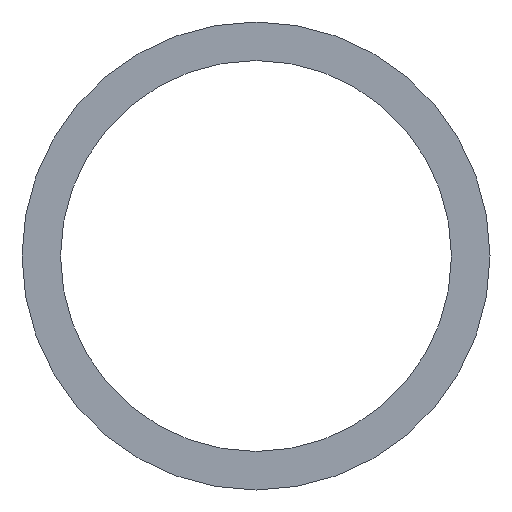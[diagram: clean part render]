
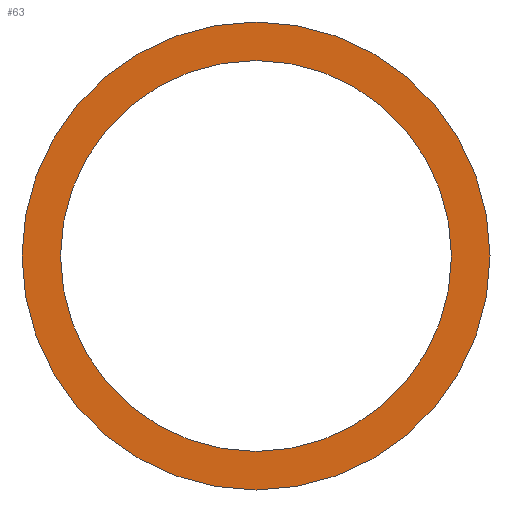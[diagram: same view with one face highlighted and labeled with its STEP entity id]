
A CAD part, left-side view. The second image highlights one B-rep face of the part: STEP entity #63.
In plain terms, the highlighted planar face has unit normal (-1, 0, 0).
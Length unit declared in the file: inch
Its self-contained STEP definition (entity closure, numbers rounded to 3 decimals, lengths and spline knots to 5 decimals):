
#11 = AXIS2_PLACEMENT_3D ( 'NONE', #332, #35, #236 ) ;
#23 = DIRECTION ( 'NONE',  ( 0., 1., 0. ) ) ;
#35 = DIRECTION ( 'NONE',  ( 1., 0., 0. ) ) ;
#46 = ORIENTED_EDGE ( 'NONE', *, *, #59, .T. ) ;
#52 = DIRECTION ( 'NONE',  ( 0., 1., 0. ) ) ;
#59 = EDGE_CURVE ( 'NONE', #158, #272, #417, .T. ) ;
#60 = AXIS2_PLACEMENT_3D ( 'NONE', #392, #89, #128 ) ;
#63 = ADVANCED_FACE ( 'NONE', ( #221, #288 ), #186, .T. ) ;
#67 = EDGE_LOOP ( 'NONE', ( #216, #335 ) ) ;
#76 = CIRCLE ( 'NONE', #131, 1.49606 ) ;
#89 = DIRECTION ( 'NONE',  ( 1., 0., 0. ) ) ;
#113 = EDGE_LOOP ( 'NONE', ( #188, #46 ) ) ;
#124 = CIRCLE ( 'NONE', #11, 1.49606 ) ;
#128 = DIRECTION ( 'NONE',  ( 0., 1., 0. ) ) ;
#129 = EDGE_CURVE ( 'NONE', #275, #388, #124, .T. ) ;
#131 = AXIS2_PLACEMENT_3D ( 'NONE', #330, #159, #419 ) ;
#158 = VERTEX_POINT ( 'NONE', #366 ) ;
#159 = DIRECTION ( 'NONE',  ( 1., 0., 0. ) ) ;
#186 = PLANE ( 'NONE',  #333 ) ;
#188 = ORIENTED_EDGE ( 'NONE', *, *, #293, .T. ) ;
#191 = CIRCLE ( 'NONE', #60, 1.25 ) ;
#192 = CARTESIAN_POINT ( 'NONE',  ( 0.14173, 0., 0. ) ) ;
#199 = AXIS2_PLACEMENT_3D ( 'NONE', #316, #285, #52 ) ;
#201 = CARTESIAN_POINT ( 'NONE',  ( 0.14173, 1.25, 0. ) ) ;
#211 = CARTESIAN_POINT ( 'NONE',  ( 0.14173, -1.49606, 0. ) ) ;
#216 = ORIENTED_EDGE ( 'NONE', *, *, #129, .F. ) ;
#221 = FACE_BOUND ( 'NONE', #113, .T. ) ;
#236 = DIRECTION ( 'NONE',  ( 0., 1., 0. ) ) ;
#239 = EDGE_CURVE ( 'NONE', #388, #275, #76, .T. ) ;
#272 = VERTEX_POINT ( 'NONE', #201 ) ;
#275 = VERTEX_POINT ( 'NONE', #395 ) ;
#285 = DIRECTION ( 'NONE',  ( 1., 0., 0. ) ) ;
#288 = FACE_OUTER_BOUND ( 'NONE', #67, .T. ) ;
#293 = EDGE_CURVE ( 'NONE', #272, #158, #191, .T. ) ;
#316 = CARTESIAN_POINT ( 'NONE',  ( 0.14173, 0., 0. ) ) ;
#317 = DIRECTION ( 'NONE',  ( -1., 0., 0. ) ) ;
#330 = CARTESIAN_POINT ( 'NONE',  ( 0.14173, 0., 0. ) ) ;
#332 = CARTESIAN_POINT ( 'NONE',  ( 0.14173, 0., 0. ) ) ;
#333 = AXIS2_PLACEMENT_3D ( 'NONE', #192, #317, #23 ) ;
#335 = ORIENTED_EDGE ( 'NONE', *, *, #239, .F. ) ;
#366 = CARTESIAN_POINT ( 'NONE',  ( 0.14173, -1.25, 0. ) ) ;
#388 = VERTEX_POINT ( 'NONE', #211 ) ;
#392 = CARTESIAN_POINT ( 'NONE',  ( 0.14173, 0., 0. ) ) ;
#395 = CARTESIAN_POINT ( 'NONE',  ( 0.14173, 1.49606, 0. ) ) ;
#417 = CIRCLE ( 'NONE', #199, 1.25 ) ;
#419 = DIRECTION ( 'NONE',  ( 0., 1., 0. ) ) ;
